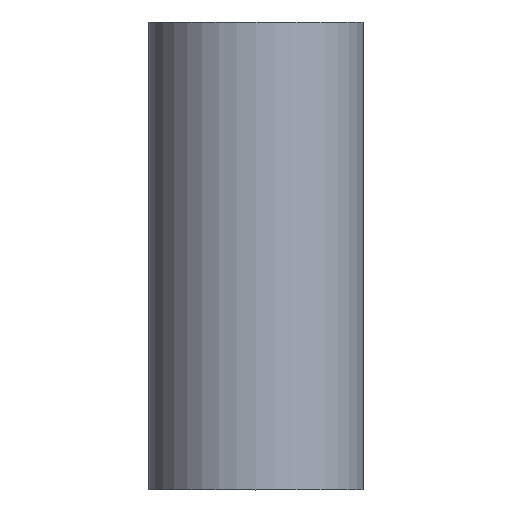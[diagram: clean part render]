
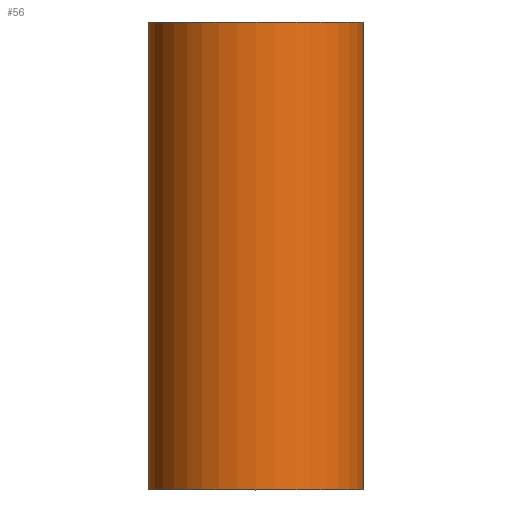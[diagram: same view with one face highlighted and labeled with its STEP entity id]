
A CAD part, top view. The second image highlights one B-rep face of the part: STEP entity #56.
In plain terms, the highlighted cylindrical face has radius 20 mm (diameter 40 mm), a full revolution.
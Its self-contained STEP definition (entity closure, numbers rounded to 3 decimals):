
#19=FACE_BOUND('',#29,.T.);
#23=FACE_OUTER_BOUND('',#28,.T.);
#28=EDGE_LOOP('',(#48));
#29=EDGE_LOOP('',(#49));
#34=CIRCLE('',#65,20.);
#35=CIRCLE('',#67,20.);
#38=VERTEX_POINT('',#94);
#39=VERTEX_POINT('',#97);
#42=EDGE_CURVE('',#38,#38,#34,.T.);
#43=EDGE_CURVE('',#39,#39,#35,.T.);
#48=ORIENTED_EDGE('',*,*,#42,.F.);
#49=ORIENTED_EDGE('',*,*,#43,.F.);
#53=CYLINDRICAL_SURFACE('',#66,20.);
#56=ADVANCED_FACE('',(#23,#19),#53,.T.);
#65=AXIS2_PLACEMENT_3D('',#95,#79,#80);
#66=AXIS2_PLACEMENT_3D('',#96,#81,#82);
#67=AXIS2_PLACEMENT_3D('',#98,#83,#84);
#79=DIRECTION('center_axis',(0.,-1.,0.));
#80=DIRECTION('ref_axis',(1.,0.,0.));
#81=DIRECTION('center_axis',(0.,1.,0.));
#82=DIRECTION('ref_axis',(1.,0.,0.));
#83=DIRECTION('center_axis',(0.,1.,0.));
#84=DIRECTION('ref_axis',(1.,0.,0.));
#94=CARTESIAN_POINT('',(-20.,-43.5,0.));
#95=CARTESIAN_POINT('Origin',(0.,-43.5,0.));
#96=CARTESIAN_POINT('Origin',(0.,0.,0.));
#97=CARTESIAN_POINT('',(-20.,43.5,0.));
#98=CARTESIAN_POINT('Origin',(0.,43.5,0.));
